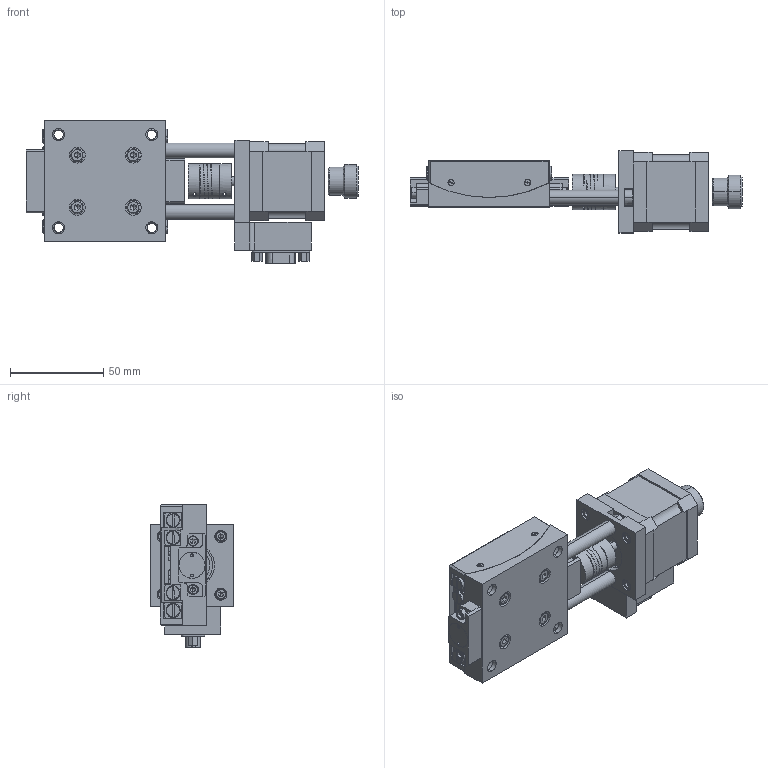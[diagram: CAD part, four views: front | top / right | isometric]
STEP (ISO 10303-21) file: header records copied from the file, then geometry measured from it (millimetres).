
FILE_DESCRIPTION (( 'STEP AP203' ), '1' );
FILE_NAME ('MOG-65-15.STEP', '2013-11-12T01:13:23', ( '' ), ( '' ), 'SwSTEP 2.0', 'SolidWorks 2010', '' );
FILE_SCHEMA (( 'CONFIG_CONTROL_DESIGN' ));
Length unit declared in the file: millimetre
Products named in the file (1): MOG-65-15
Bounding box: 178 x 44 x 76.5 mm (x, y, z)
Surface area: 63776 mm2 (no closed solid volume)
Topology: 0 solids, 76 shells, 766 faces, 2350 edges, 1615 vertices
Faces by surface type: plane 414, cylinder 234, cone 70, bspline 48
Entity records: 35619 total; most frequent: CARTESIAN_POINT 15424, DIRECTION 3940, ORIENTED_EDGE 3904, EDGE_CURVE 2321, VERTEX_POINT 1615, AXIS2_PLACEMENT_3D 1315, VECTOR 1310, LINE 1310
